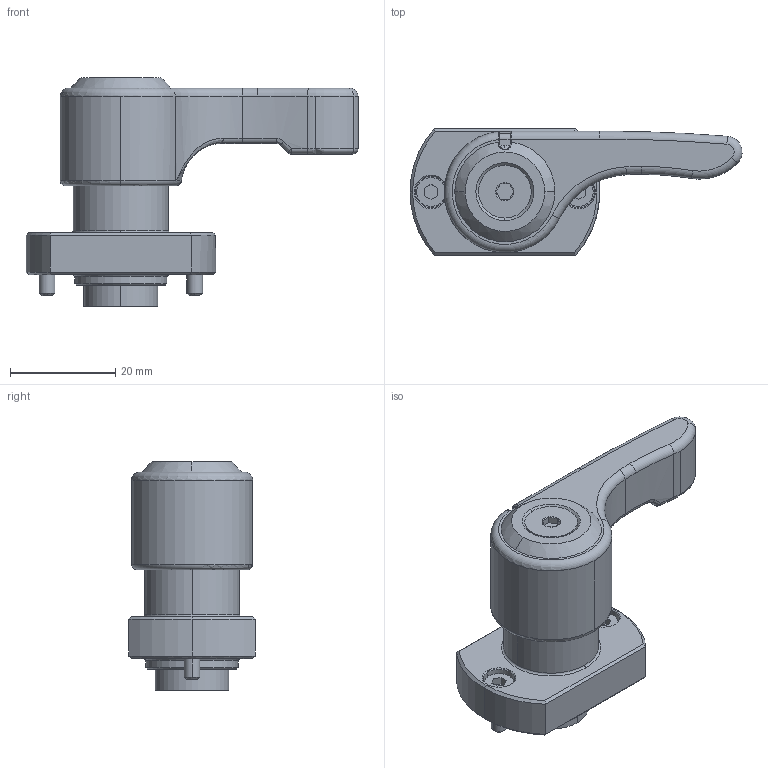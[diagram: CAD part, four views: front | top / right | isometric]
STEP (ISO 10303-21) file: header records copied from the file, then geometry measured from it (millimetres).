
FILE_DESCRIPTION (( 'STEP AP203' ), '1' );
FILE_NAME ('qcps1036-6-bk-d.STEP', '2023-04-07T01:55:44', ( '' ), ( '' ), 'SwSTEP 2.0', 'SolidWorks 2021', '' );
FILE_SCHEMA (( 'CONFIG_CONTROL_DESIGN' ));
Length unit declared in the file: millimetre
Products named in the file (4): qcps1036-6-bk-d_01_蹬怮椔; qcps1036-6-bk-d; qcps1036-6-bk-d_02_蹬怮椔; qcps1036-6-bk-d_03_蹬怮椔
Assembly tree (3 placements, depth 2):
  qcps1036-6-bk-d
    qcps1036-6-bk-d_01_蹬怮椔
    qcps1036-6-bk-d_02_蹬怮椔
    qcps1036-6-bk-d_03_蹬怮椔
Bounding box: 62.99 x 24 x 43.4 mm (x, y, z)
Volume: 18319.8 mm3; surface area: 11628.6 mm2
Topology: 3 solids, 3 shells, 378 faces, 881 edges, 548 vertices
Faces by surface type: plane 146, cylinder 115, torus 42, cone 41, bspline 23, sphere 11
Entity records: 12886 total; most frequent: CARTESIAN_POINT 3775, DIRECTION 1914, ORIENTED_EDGE 1756, EDGE_CURVE 878, AXIS2_PLACEMENT_3D 755, VERTEX_POINT 548, EDGE_LOOP 422, VECTOR 404
